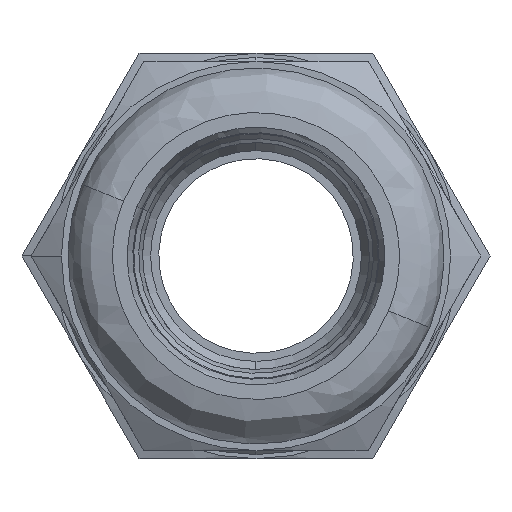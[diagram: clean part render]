
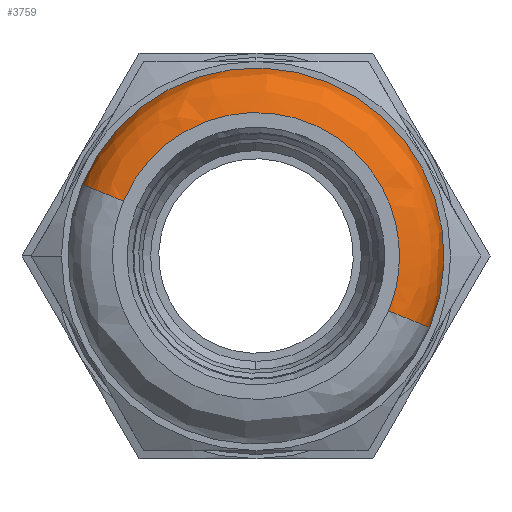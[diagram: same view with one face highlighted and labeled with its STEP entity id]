
A CAD part, left-side view. The second image highlights one B-rep face of the part: STEP entity #3759.
In plain terms, the highlighted free-form (B-spline) face has degree [3, 3] with [4, 4] control points.
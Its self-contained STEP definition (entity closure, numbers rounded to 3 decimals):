
#4 = AXIS2_PLACEMENT_3D ( 'NONE', #4297, #1356, #195 ) ;
#16 = ORIENTED_EDGE ( 'NONE', *, *, #854, .F. ) ;
#62 = AXIS2_PLACEMENT_3D ( 'NONE', #4848, #1066, #2920 ) ;
#157 = CARTESIAN_POINT ( 'NONE',  ( 28., 0., -8.85 ) ) ;
#195 = DIRECTION ( 'NONE',  ( 0., 0., -1. ) ) ;
#243 = EDGE_CURVE ( 'NONE', #1194, #2801, #2515, .T. ) ;
#244 = CARTESIAN_POINT ( 'NONE',  ( 25.25, -23.2, 11.6 ) ) ;
#278 = CARTESIAN_POINT ( 'NONE',  ( 28., -17.7, 8.85 ) ) ;
#289 = CIRCLE ( 'NONE', #62, 2.75 ) ;
#455 = FACE_OUTER_BOUND ( 'NONE', #3221, .T. ) ;
#460 = CARTESIAN_POINT ( 'NONE',  ( 28., 0., 8.85 ) ) ;
#461 = AXIS2_PLACEMENT_3D ( 'NONE', #533, #2833, #3176 ) ;
#494 = VERTEX_POINT ( 'NONE', #2184 ) ;
#533 = CARTESIAN_POINT ( 'NONE',  ( 25.25, 0., 0. ) ) ;
#618 = CARTESIAN_POINT ( 'NONE',  ( 28., 0., -8.85 ) ) ;
#636 = CARTESIAN_POINT ( 'NONE',  ( 28., 0., 8.85 ) ) ;
#672 = CARTESIAN_POINT ( 'NONE',  ( 26.861, -23.2, 11.6 ) ) ;
#700 = EDGE_CURVE ( 'NONE', #2801, #1104, #3137, .T. ) ;
#771 = CARTESIAN_POINT ( 'NONE',  ( 28., 0., -8.85 ) ) ;
#854 = EDGE_CURVE ( 'NONE', #1194, #494, #1160, .T. ) ;
#983 = CARTESIAN_POINT ( 'NONE',  ( 26.861, 0., -11.6 ) ) ;
#1066 = DIRECTION ( 'NONE',  ( 0., 1., 0. ) ) ;
#1104 = VERTEX_POINT ( 'NONE', #460 ) ;
#1160 = CIRCLE ( 'NONE', #461, 11.6 ) ;
#1169 = CARTESIAN_POINT ( 'NONE',  ( 28., -17.7, 8.85 ) ) ;
#1194 = VERTEX_POINT ( 'NONE', #4667 ) ;
#1356 = DIRECTION ( 'NONE',  ( 0., -1., 0. ) ) ;
#1371 = CARTESIAN_POINT ( 'NONE',  ( 28., -20.922, 10.461 ) ) ;
#1906 = CARTESIAN_POINT ( 'NONE',  ( 28., -17.7, -8.85 ) ) ;
#2040 = ORIENTED_EDGE ( 'NONE', *, *, #4439, .F. ) ;
#2184 = CARTESIAN_POINT ( 'NONE',  ( 25.25, 0., 11.6 ) ) ;
#2321 = ORIENTED_EDGE ( 'NONE', *, *, #243, .T. ) ;
#2489 = CARTESIAN_POINT ( 'NONE',  ( 25.25, -23.2, -11.6 ) ) ;
#2515 = CIRCLE ( 'NONE', #4, 2.75 ) ;
#2561 = CARTESIAN_POINT ( 'NONE',  ( 25.25, 0., 11.6 ) ) ;
#2801 = VERTEX_POINT ( 'NONE', #157 ) ;
#2833 = DIRECTION ( 'NONE',  ( -1., 0., 0. ) ) ;
#2890 = CARTESIAN_POINT ( 'NONE',  ( 28., 0., 10.461 ) ) ;
#2920 = DIRECTION ( 'NONE',  ( 0., 0., 1. ) ) ;
#2922 = ORIENTED_EDGE ( 'NONE', *, *, #700, .T. ) ;
#2947 = CARTESIAN_POINT ( 'NONE',  ( 28., 0., -10.461 ) ) ;
#3075 =( BOUNDED_SURFACE ( )  B_SPLINE_SURFACE ( 3, 3, ( 
 ( #4835, #2489, #244, #2561 ),
 ( #983, #4378, #672, #3629 ),
 ( #2947, #3319, #1371, #2890 ),
 ( #618, #4428, #278, #636 ) ),
 .UNSPECIFIED., .F., .F., .F. ) 
 B_SPLINE_SURFACE_WITH_KNOTS ( ( 4, 4 ),
 ( 4, 4 ),
 ( 0., 1. ),
 ( 0., 1. ),
 .UNSPECIFIED. ) 
 GEOMETRIC_REPRESENTATION_ITEM ( )  RATIONAL_B_SPLINE_SURFACE ( (
 ( 1., 0.333, 0.333, 1.),
 ( 0.805, 0.268, 0.268, 0.805),
 ( 0.805, 0.268, 0.268, 0.805),
 ( 1., 0.333, 0.333, 1.) ) ) 
 REPRESENTATION_ITEM ( '' )  SURFACE ( )  );
#3137 =( BOUNDED_CURVE ( )  B_SPLINE_CURVE ( 3, ( #771, #1906, #1169, #3806 ),
 .UNSPECIFIED., .F., .F. ) 
 B_SPLINE_CURVE_WITH_KNOTS ( ( 4, 4 ),
 ( 0., 1. ),
 .UNSPECIFIED. ) 
 CURVE ( )  GEOMETRIC_REPRESENTATION_ITEM ( )  RATIONAL_B_SPLINE_CURVE ( ( 1., 0.333, 0.333, 1. ) ) 
 REPRESENTATION_ITEM ( '' )  );
#3176 = DIRECTION ( 'NONE',  ( 0., 0., 1. ) ) ;
#3221 = EDGE_LOOP ( 'NONE', ( #16, #2321, #2922, #2040 ) ) ;
#3319 = CARTESIAN_POINT ( 'NONE',  ( 28., -20.922, -10.461 ) ) ;
#3629 = CARTESIAN_POINT ( 'NONE',  ( 26.861, 0., 11.6 ) ) ;
#3759 = ADVANCED_FACE ( 'NONE', ( #455 ), #3075, .T. ) ;
#3806 = CARTESIAN_POINT ( 'NONE',  ( 28., 0., 8.85 ) ) ;
#4297 = CARTESIAN_POINT ( 'NONE',  ( 25.25, 0., -8.85 ) ) ;
#4378 = CARTESIAN_POINT ( 'NONE',  ( 26.861, -23.2, -11.6 ) ) ;
#4428 = CARTESIAN_POINT ( 'NONE',  ( 28., -17.7, -8.85 ) ) ;
#4439 = EDGE_CURVE ( 'NONE', #494, #1104, #289, .T. ) ;
#4667 = CARTESIAN_POINT ( 'NONE',  ( 25.25, 0., -11.6 ) ) ;
#4835 = CARTESIAN_POINT ( 'NONE',  ( 25.25, 0., -11.6 ) ) ;
#4848 = CARTESIAN_POINT ( 'NONE',  ( 25.25, 0., 8.85 ) ) ;
